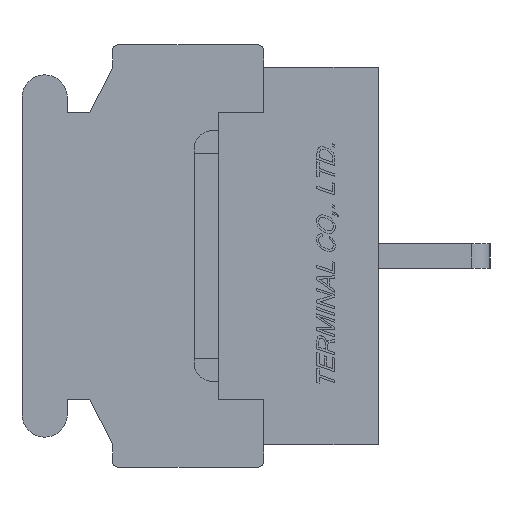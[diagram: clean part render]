
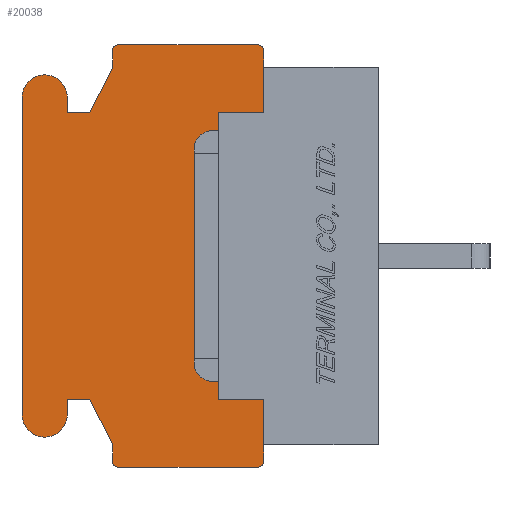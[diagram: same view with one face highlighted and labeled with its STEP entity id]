
A CAD part, left-side view. The second image highlights one B-rep face of the part: STEP entity #20038.
In plain terms, the highlighted planar face has unit normal (-1, 0, 0).
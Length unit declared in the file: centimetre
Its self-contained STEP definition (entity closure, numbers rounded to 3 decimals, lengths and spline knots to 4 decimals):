
#916=PLANE('',#32573);
#1969=VECTOR('',#21754,1.);
#2364=VECTOR('',#22282,1.);
#2367=VECTOR('',#22286,1.);
#2369=VECTOR('',#22289,1.);
#2370=VECTOR('',#22291,1.);
#2371=VECTOR('',#22293,1.);
#2372=VECTOR('',#22296,1.);
#2373=VECTOR('',#22299,1.);
#2374=VECTOR('',#22300,1.);
#2375=VECTOR('',#22301,1.);
#2376=VECTOR('',#22302,1.);
#2377=VECTOR('',#22305,1.);
#2378=VECTOR('',#22308,1.);
#2379=VECTOR('',#22309,1.);
#2380=VECTOR('',#22310,1.);
#2381=VECTOR('',#22311,1.);
#2382=VECTOR('',#22314,1.);
#2383=VECTOR('',#22317,1.);
#4185=LINE('',#27024,#1969);
#4580=LINE('',#28509,#2364);
#4583=LINE('',#28515,#2367);
#4585=LINE('',#28519,#2369);
#4586=LINE('',#28521,#2370);
#4587=LINE('',#28523,#2371);
#4588=LINE('',#28527,#2372);
#4589=LINE('',#28531,#2373);
#4590=LINE('',#28533,#2374);
#4591=LINE('',#28535,#2375);
#4592=LINE('',#28537,#2376);
#4593=LINE('',#28541,#2377);
#4594=LINE('',#28545,#2378);
#4595=LINE('',#28547,#2379);
#4596=LINE('',#28549,#2380);
#4597=LINE('',#28551,#2381);
#4598=LINE('',#28555,#2382);
#4599=LINE('',#28559,#2383);
#6340=VERTEX_POINT('',#27023);
#6341=VERTEX_POINT('',#27025);
#6675=VERTEX_POINT('',#28508);
#6676=VERTEX_POINT('',#28510);
#6677=VERTEX_POINT('',#28514);
#6678=VERTEX_POINT('',#28516);
#6679=VERTEX_POINT('',#28524);
#6680=VERTEX_POINT('',#28526);
#6681=VERTEX_POINT('',#28528);
#6682=VERTEX_POINT('',#28530);
#6683=VERTEX_POINT('',#28532);
#6684=VERTEX_POINT('',#28534);
#6685=VERTEX_POINT('',#28536);
#6686=VERTEX_POINT('',#28538);
#6687=VERTEX_POINT('',#28540);
#6688=VERTEX_POINT('',#28542);
#6689=VERTEX_POINT('',#28544);
#6690=VERTEX_POINT('',#28546);
#6691=VERTEX_POINT('',#28548);
#6692=VERTEX_POINT('',#28550);
#6693=VERTEX_POINT('',#28552);
#6694=VERTEX_POINT('',#28554);
#6695=VERTEX_POINT('',#28556);
#6696=VERTEX_POINT('',#28558);
#7843=CIRCLE('',#32574,0.02);
#7844=CIRCLE('',#32575,0.02);
#7845=CIRCLE('',#32576,0.075);
#7846=CIRCLE('',#32577,0.075);
#7847=CIRCLE('',#32578,0.02);
#7848=CIRCLE('',#32579,0.02);
#8946=EDGE_CURVE('',#6341,#6340,#4185,.T.);
#9447=EDGE_CURVE('',#6676,#6675,#4580,.T.);
#9450=EDGE_CURVE('',#6678,#6677,#4583,.T.);
#9452=EDGE_CURVE('',#6677,#6341,#4585,.T.);
#9453=EDGE_CURVE('',#6340,#6676,#4586,.T.);
#9454=EDGE_CURVE('',#6679,#6675,#4587,.T.);
#9455=EDGE_CURVE('',#6680,#6679,#7843,.T.);
#9456=EDGE_CURVE('',#6681,#6680,#4588,.T.);
#9457=EDGE_CURVE('',#6682,#6681,#7844,.T.);
#9458=EDGE_CURVE('',#6683,#6682,#4589,.T.);
#9459=EDGE_CURVE('',#6684,#6683,#4590,.T.);
#9460=EDGE_CURVE('',#6685,#6684,#4591,.T.);
#9461=EDGE_CURVE('',#6686,#6685,#4592,.T.);
#9462=EDGE_CURVE('',#6687,#6686,#7845,.T.);
#9463=EDGE_CURVE('',#6688,#6687,#4593,.T.);
#9464=EDGE_CURVE('',#6689,#6688,#7846,.T.);
#9465=EDGE_CURVE('',#6690,#6689,#4594,.T.);
#9466=EDGE_CURVE('',#6691,#6690,#4595,.T.);
#9467=EDGE_CURVE('',#6692,#6691,#4596,.T.);
#9468=EDGE_CURVE('',#6693,#6692,#4597,.T.);
#9469=EDGE_CURVE('',#6694,#6693,#7847,.T.);
#9470=EDGE_CURVE('',#6695,#6694,#4598,.T.);
#9471=EDGE_CURVE('',#6696,#6695,#7848,.T.);
#9472=EDGE_CURVE('',#6678,#6696,#4599,.T.);
#13719=ORIENTED_EDGE('',*,*,#9450,.T.);
#13720=ORIENTED_EDGE('',*,*,#9452,.T.);
#13721=ORIENTED_EDGE('',*,*,#8946,.T.);
#13722=ORIENTED_EDGE('',*,*,#9453,.T.);
#13723=ORIENTED_EDGE('',*,*,#9447,.T.);
#13724=ORIENTED_EDGE('',*,*,#9454,.F.);
#13725=ORIENTED_EDGE('',*,*,#9455,.F.);
#13726=ORIENTED_EDGE('',*,*,#9456,.F.);
#13727=ORIENTED_EDGE('',*,*,#9457,.F.);
#13728=ORIENTED_EDGE('',*,*,#9458,.F.);
#13729=ORIENTED_EDGE('',*,*,#9459,.F.);
#13730=ORIENTED_EDGE('',*,*,#9460,.F.);
#13731=ORIENTED_EDGE('',*,*,#9461,.F.);
#13732=ORIENTED_EDGE('',*,*,#9462,.F.);
#13733=ORIENTED_EDGE('',*,*,#9463,.F.);
#13734=ORIENTED_EDGE('',*,*,#9464,.F.);
#13735=ORIENTED_EDGE('',*,*,#9465,.F.);
#13736=ORIENTED_EDGE('',*,*,#9466,.F.);
#13737=ORIENTED_EDGE('',*,*,#9467,.F.);
#13738=ORIENTED_EDGE('',*,*,#9468,.F.);
#13739=ORIENTED_EDGE('',*,*,#9469,.F.);
#13740=ORIENTED_EDGE('',*,*,#9470,.F.);
#13741=ORIENTED_EDGE('',*,*,#9471,.F.);
#13742=ORIENTED_EDGE('',*,*,#9472,.F.);
#17670=EDGE_LOOP('',(#13719,#13720,#13721,#13722,#13723,#13724,#13725,#13726,
#13727,#13728,#13729,#13730,#13731,#13732,#13733,#13734,#13735,#13736,#13737,
#13738,#13739,#13740,#13741,#13742));
#18880=FACE_BOUND('',#17670,.T.);
#20038=ADVANCED_FACE('',(#18880),#916,.F.);
#21754=DIRECTION('',(0.,0.,1.));
#22282=DIRECTION('',(0.,0.,1.));
#22286=DIRECTION('',(0.,0.,1.));
#22289=DIRECTION('',(0.,1.,0.));
#22291=DIRECTION('',(0.,-1.,0.));
#22292=DIRECTION('',(1.,0.,0.));
#22293=DIRECTION('',(0.,0.,-1.));
#22294=DIRECTION('',(1.,0.,0.));
#22295=DIRECTION('',(0.,0.,-0.02));
#22296=DIRECTION('',(0.,-1.,0.));
#22297=DIRECTION('',(1.,0.,0.));
#22298=DIRECTION('',(0.,0.,-0.02));
#22299=DIRECTION('',(0.,0.,1.));
#22300=DIRECTION('',(0.,-0.447,0.894));
#22301=DIRECTION('',(0.,-1.,0.));
#22302=DIRECTION('',(0.,0.,-1.));
#22303=DIRECTION('',(1.,0.,0.));
#22304=DIRECTION('',(0.,0.,-0.075));
#22305=DIRECTION('',(0.,0.,1.));
#22306=DIRECTION('',(1.,0.,0.));
#22307=DIRECTION('',(0.,0.,-0.075));
#22308=DIRECTION('',(0.,0.,-1.));
#22309=DIRECTION('',(0.,1.,0.));
#22310=DIRECTION('',(0.,0.447,0.894));
#22311=DIRECTION('',(0.,0.,1.));
#22312=DIRECTION('',(1.,0.,0.));
#22313=DIRECTION('',(0.,0.,-0.02));
#22314=DIRECTION('',(0.,1.,0.));
#22315=DIRECTION('',(1.,0.,0.));
#22316=DIRECTION('',(0.,0.,-0.02));
#22317=DIRECTION('',(0.,0.,-1.));
#27023=CARTESIAN_POINT('',(-0.762,0.53,0.475));
#27024=CARTESIAN_POINT('',(-0.762,0.53,0.));
#27025=CARTESIAN_POINT('',(-0.762,0.53,-0.475));
#28508=CARTESIAN_POINT('',(-0.762,0.38,0.625));
#28509=CARTESIAN_POINT('',(-0.762,0.38,0.275));
#28510=CARTESIAN_POINT('',(-0.762,0.38,0.475));
#28514=CARTESIAN_POINT('',(-0.762,0.38,-0.475));
#28515=CARTESIAN_POINT('',(-0.762,0.38,-0.275));
#28516=CARTESIAN_POINT('',(-0.762,0.38,-0.625));
#28519=CARTESIAN_POINT('',(-0.762,0.5304,-0.475));
#28521=CARTESIAN_POINT('',(-0.762,0.5304,0.475));
#28522=CARTESIAN_POINT('',(-0.762,0.6059,0.));
#28523=CARTESIAN_POINT('',(-0.762,0.38,0.68));
#28524=CARTESIAN_POINT('',(-0.762,0.38,0.68));
#28525=CARTESIAN_POINT('',(-0.762,0.4,0.68));
#28526=CARTESIAN_POINT('',(-0.762,0.4,0.7));
#28527=CARTESIAN_POINT('',(-0.762,0.86,0.7));
#28528=CARTESIAN_POINT('',(-0.762,0.86,0.7));
#28529=CARTESIAN_POINT('',(-0.762,0.86,0.68));
#28530=CARTESIAN_POINT('',(-0.762,0.88,0.68));
#28531=CARTESIAN_POINT('',(-0.762,0.88,0.625));
#28532=CARTESIAN_POINT('',(-0.762,0.88,0.625));
#28533=CARTESIAN_POINT('',(-0.762,0.955,0.475));
#28534=CARTESIAN_POINT('',(-0.762,0.955,0.475));
#28535=CARTESIAN_POINT('',(-0.762,1.03,0.475));
#28536=CARTESIAN_POINT('',(-0.762,1.03,0.475));
#28537=CARTESIAN_POINT('',(-0.762,1.03,0.525));
#28538=CARTESIAN_POINT('',(-0.762,1.03,0.525));
#28539=CARTESIAN_POINT('',(-0.762,1.105,0.525));
#28540=CARTESIAN_POINT('',(-0.762,1.18,0.525));
#28541=CARTESIAN_POINT('',(-0.762,1.18,-0.525));
#28542=CARTESIAN_POINT('',(-0.762,1.18,-0.525));
#28543=CARTESIAN_POINT('',(-0.762,1.105,-0.525));
#28544=CARTESIAN_POINT('',(-0.762,1.03,-0.525));
#28545=CARTESIAN_POINT('',(-0.762,1.03,-0.475));
#28546=CARTESIAN_POINT('',(-0.762,1.03,-0.475));
#28547=CARTESIAN_POINT('',(-0.762,0.955,-0.475));
#28548=CARTESIAN_POINT('',(-0.762,0.955,-0.475));
#28549=CARTESIAN_POINT('',(-0.762,0.88,-0.625));
#28550=CARTESIAN_POINT('',(-0.762,0.88,-0.625));
#28551=CARTESIAN_POINT('',(-0.762,0.88,-0.68));
#28552=CARTESIAN_POINT('',(-0.762,0.88,-0.68));
#28553=CARTESIAN_POINT('',(-0.762,0.86,-0.68));
#28554=CARTESIAN_POINT('',(-0.762,0.86,-0.7));
#28555=CARTESIAN_POINT('',(-0.762,0.4,-0.7));
#28556=CARTESIAN_POINT('',(-0.762,0.4,-0.7));
#28557=CARTESIAN_POINT('',(-0.762,0.4,-0.68));
#28558=CARTESIAN_POINT('',(-0.762,0.38,-0.68));
#28559=CARTESIAN_POINT('',(-0.762,0.38,-0.625));
#32573=AXIS2_PLACEMENT_3D('',#28522,#22292,$);
#32574=AXIS2_PLACEMENT_3D('',#28525,#22294,#22295);
#32575=AXIS2_PLACEMENT_3D('',#28529,#22297,#22298);
#32576=AXIS2_PLACEMENT_3D('',#28539,#22303,#22304);
#32577=AXIS2_PLACEMENT_3D('',#28543,#22306,#22307);
#32578=AXIS2_PLACEMENT_3D('',#28553,#22312,#22313);
#32579=AXIS2_PLACEMENT_3D('',#28557,#22315,#22316);
